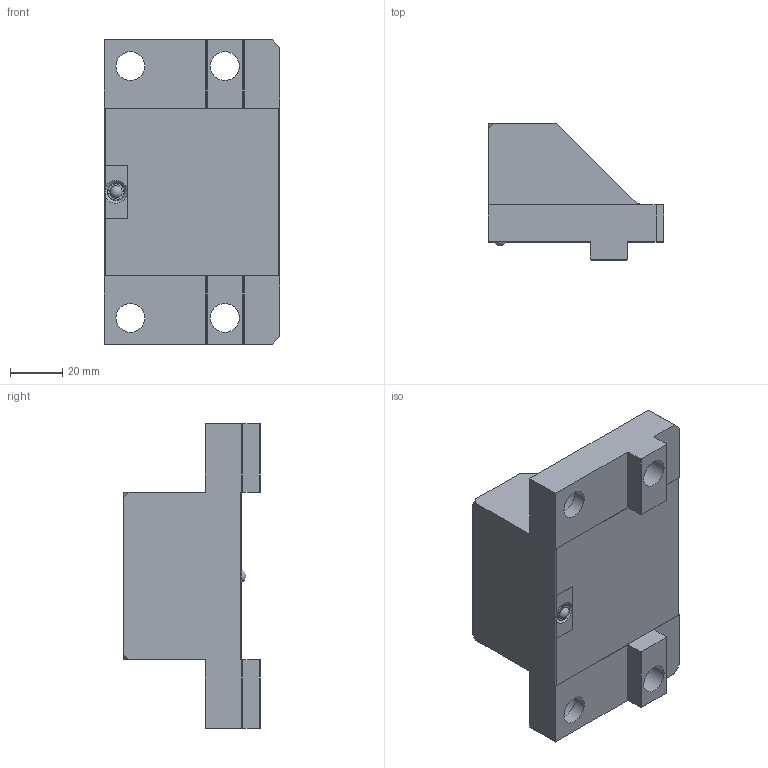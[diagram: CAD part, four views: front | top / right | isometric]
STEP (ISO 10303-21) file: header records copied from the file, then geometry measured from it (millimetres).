
FILE_DESCRIPTION (( 'STEP AP214' ), '1' );
FILE_NAME ('6921884040140.STEP', '2020-10-16T05:18:50', ( '' ), ( '' ), 'SwSTEP 2.0', 'SolidWorks 2018', '' );
FILE_SCHEMA (( 'AUTOMOTIVE_DESIGN' ));
Length unit declared in the file: millimetre
Products named in the file (1): 6921884040140
Bounding box: 67 x 52 x 116 mm (x, y, z)
Volume: 176867.8 mm3; surface area: 31874.9 mm2
Topology: 2 solids, 2 shells, 247 faces, 632 edges, 420 vertices
Faces by surface type: plane 127, bspline 93, cylinder 19, cone 4, torus 3, sphere 1
Full cylindrical faces by diameter (mm): 6 x2, 11 x4, 12.5 x2, 16 x2, 17 x4
Entity records: 12246 total; most frequent: CARTESIAN_POINT 6887, ORIENTED_EDGE 1210, DIRECTION 771, EDGE_CURVE 605, VERTEX_POINT 414, VECTOR 375, LINE 375, EDGE_LOOP 307
